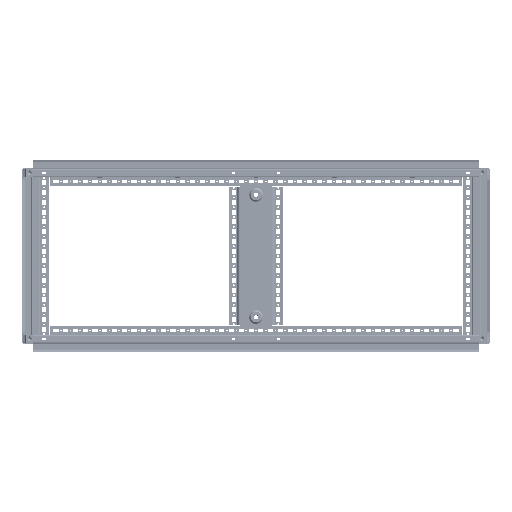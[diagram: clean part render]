
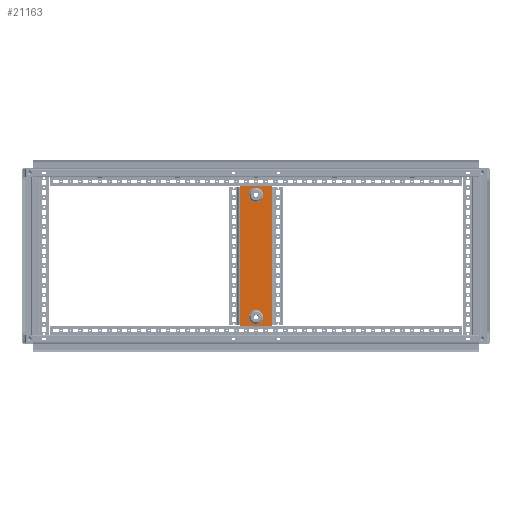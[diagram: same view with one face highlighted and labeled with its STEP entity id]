
A CAD part, front view. The second image highlights one B-rep face of the part: STEP entity #21163.
In plain terms, the highlighted planar face has unit normal (0, -1, 0) as drawn and (0, 0, -1) by its records, which use the part's own axes.
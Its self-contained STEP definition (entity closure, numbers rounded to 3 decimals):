
#25 = DIRECTION ( 'NONE',  ( 1., 0., 0. ) ) ;
#581 = DIRECTION ( 'NONE',  ( 0., 0., -1. ) ) ;
#1079 = CARTESIAN_POINT ( 'NONE',  ( -178.702, -40., 0. ) ) ;
#1216 = ORIENTED_EDGE ( 'NONE', *, *, #50807, .T. ) ;
#1516 = ORIENTED_EDGE ( 'NONE', *, *, #97922, .F. ) ;
#1954 = ORIENTED_EDGE ( 'NONE', *, *, #83735, .T. ) ;
#1981 = DIRECTION ( 'NONE',  ( 1., 0., 0. ) ) ;
#2145 = VERTEX_POINT ( 'NONE', #31481 ) ;
#3298 = VERTEX_POINT ( 'NONE', #1079 ) ;
#3462 = VERTEX_POINT ( 'NONE', #74191 ) ;
#3917 = VECTOR ( 'NONE', #59020, 1000. ) ;
#5285 = CARTESIAN_POINT ( 'NONE',  ( 175.702, -40., 0. ) ) ;
#6473 = VECTOR ( 'NONE', #15382, 1000. ) ;
#6522 = EDGE_CURVE ( 'NONE', #2145, #3298, #24929, .T. ) ;
#8013 = LINE ( 'NONE', #37489, #89281 ) ;
#9247 = DIRECTION ( 'NONE',  ( -1., 0., 0. ) ) ;
#10248 = VERTEX_POINT ( 'NONE', #99473 ) ;
#11030 = LINE ( 'NONE', #16117, #29527 ) ;
#13225 = EDGE_CURVE ( 'NONE', #3462, #91057, #27482, .T. ) ;
#13891 = AXIS2_PLACEMENT_3D ( 'NONE', #34374, #89401, #42305 ) ;
#14155 = CIRCLE ( 'NONE', #13891, 18.267 ) ;
#14299 = VERTEX_POINT ( 'NONE', #68925 ) ;
#14522 = FACE_BOUND ( 'NONE', #55152, .T. ) ;
#15382 = DIRECTION ( 'NONE',  ( 0., 1., 0. ) ) ;
#15670 = EDGE_CURVE ( 'NONE', #25083, #87739, #30799, .T. ) ;
#16117 = CARTESIAN_POINT ( 'NONE',  ( 178.702, -46.558, 0. ) ) ;
#16547 = CARTESIAN_POINT ( 'NONE',  ( -178.702, 40., 0. ) ) ;
#17262 = VERTEX_POINT ( 'NONE', #18788 ) ;
#17271 = EDGE_CURVE ( 'NONE', #39139, #10248, #90605, .T. ) ;
#18788 = CARTESIAN_POINT ( 'NONE',  ( -156.604, 18.267, 0. ) ) ;
#19745 = VECTOR ( 'NONE', #1981, 1000. ) ;
#19975 = VERTEX_POINT ( 'NONE', #37991 ) ;
#21052 = DIRECTION ( 'NONE',  ( 0., 0., -1. ) ) ;
#21163 = ADVANCED_FACE ( 'NONE', ( #14522, #95773, #74915 ), #37461, .T. ) ;
#21636 = DIRECTION ( 'NONE',  ( 0., 1., 0. ) ) ;
#22433 = ORIENTED_EDGE ( 'NONE', *, *, #15670, .T. ) ;
#23335 = EDGE_CURVE ( 'NONE', #50260, #3298, #24031, .T. ) ;
#23821 = EDGE_CURVE ( 'NONE', #81499, #91057, #84281, .T. ) ;
#24031 = LINE ( 'NONE', #81139, #45013 ) ;
#24829 = CIRCLE ( 'NONE', #98628, 18.267 ) ;
#24929 = LINE ( 'NONE', #98173, #3917 ) ;
#25083 = VERTEX_POINT ( 'NONE', #67938 ) ;
#25286 = EDGE_CURVE ( 'NONE', #87768, #50454, #24829, .T. ) ;
#25538 = ORIENTED_EDGE ( 'NONE', *, *, #74150, .T. ) ;
#26432 = VERTEX_POINT ( 'NONE', #79305 ) ;
#27482 = LINE ( 'NONE', #38799, #6473 ) ;
#27804 = ORIENTED_EDGE ( 'NONE', *, *, #23821, .F. ) ;
#29280 = AXIS2_PLACEMENT_3D ( 'NONE', #68299, #21052, #76173 ) ;
#29527 = VECTOR ( 'NONE', #39903, 1000. ) ;
#29717 = CARTESIAN_POINT ( 'NONE',  ( -156.604, 0., 0. ) ) ;
#29881 = CARTESIAN_POINT ( 'NONE',  ( 178.702, -46.558, 0. ) ) ;
#30595 = EDGE_CURVE ( 'NONE', #50260, #3462, #77646, .T. ) ;
#30799 = LINE ( 'NONE', #63192, #67819 ) ;
#31481 = CARTESIAN_POINT ( 'NONE',  ( -175.702, -40., 0. ) ) ;
#32061 = EDGE_CURVE ( 'NONE', #17262, #14299, #99454, .T. ) ;
#32182 = DIRECTION ( 'NONE',  ( -1., 0., 0. ) ) ;
#33383 = LINE ( 'NONE', #95616, #72828 ) ;
#33853 = AXIS2_PLACEMENT_3D ( 'NONE', #29717, #84770, #37636 ) ;
#34374 = CARTESIAN_POINT ( 'NONE',  ( -156.604, 0., 0. ) ) ;
#37216 = LINE ( 'NONE', #95263, #79074 ) ;
#37461 = PLANE ( 'NONE',  #99698 ) ;
#37488 = VECTOR ( 'NONE', #32182, 1000. ) ;
#37489 = CARTESIAN_POINT ( 'NONE',  ( -175.702, -69.5, 0. ) ) ;
#37636 = DIRECTION ( 'NONE',  ( -1., 0., 0. ) ) ;
#37798 = DIRECTION ( 'NONE',  ( 0., 1., 0. ) ) ;
#37991 = CARTESIAN_POINT ( 'NONE',  ( 178.702, -40., 0. ) ) ;
#38799 = CARTESIAN_POINT ( 'NONE',  ( -175.702, 69.5, 0. ) ) ;
#39139 = VERTEX_POINT ( 'NONE', #5285 ) ;
#39903 = DIRECTION ( 'NONE',  ( 0., -1., 0. ) ) ;
#41011 = ORIENTED_EDGE ( 'NONE', *, *, #6522, .T. ) ;
#42305 = DIRECTION ( 'NONE',  ( -1., 0., 0. ) ) ;
#42431 = ORIENTED_EDGE ( 'NONE', *, *, #23335, .F. ) ;
#42879 = ORIENTED_EDGE ( 'NONE', *, *, #25286, .F. ) ;
#45013 = VECTOR ( 'NONE', #65397, 1000. ) ;
#46996 = CARTESIAN_POINT ( 'NONE',  ( 178.702, 40., 0. ) ) ;
#47249 = ORIENTED_EDGE ( 'NONE', *, *, #32061, .F. ) ;
#47874 = CARTESIAN_POINT ( 'NONE',  ( 156.604, 0., 0. ) ) ;
#48164 = DIRECTION ( 'NONE',  ( -1., 0., 0. ) ) ;
#48807 = VECTOR ( 'NONE', #81789, 1000. ) ;
#49266 = EDGE_CURVE ( 'NONE', #87739, #19975, #11030, .T. ) ;
#50260 = VERTEX_POINT ( 'NONE', #16547 ) ;
#50454 = VERTEX_POINT ( 'NONE', #74094 ) ;
#50633 = CARTESIAN_POINT ( 'NONE',  ( 175.702, 41.808, 0. ) ) ;
#50807 = EDGE_CURVE ( 'NONE', #10248, #26432, #33383, .T. ) ;
#53174 = ORIENTED_EDGE ( 'NONE', *, *, #30595, .T. ) ;
#53889 = EDGE_LOOP ( 'NONE', ( #42879, #56413 ) ) ;
#55152 = EDGE_LOOP ( 'NONE', ( #47249, #1516 ) ) ;
#55803 = DIRECTION ( 'NONE',  ( -1., 0., 0. ) ) ;
#55804 = VECTOR ( 'NONE', #72668, 1000. ) ;
#56413 = ORIENTED_EDGE ( 'NONE', *, *, #60392, .F. ) ;
#56851 = CARTESIAN_POINT ( 'NONE',  ( 175.702, 69.5, 0. ) ) ;
#59020 = DIRECTION ( 'NONE',  ( -1., 0., 0. ) ) ;
#59991 = EDGE_LOOP ( 'NONE', ( #80201, #1216, #25538, #41011, #42431, #53174, #93249, #27804, #60258, #22433, #81516, #1954 ) ) ;
#60258 = ORIENTED_EDGE ( 'NONE', *, *, #83302, .T. ) ;
#60392 = EDGE_CURVE ( 'NONE', #50454, #87768, #91392, .T. ) ;
#63192 = CARTESIAN_POINT ( 'NONE',  ( 178.702, 40., 0. ) ) ;
#63226 = CARTESIAN_POINT ( 'NONE',  ( 156.604, 18.267, 0. ) ) ;
#64822 = CARTESIAN_POINT ( 'NONE',  ( -178.702, 40., 0. ) ) ;
#65397 = DIRECTION ( 'NONE',  ( 0., -1., 0. ) ) ;
#67819 = VECTOR ( 'NONE', #25, 1000. ) ;
#67938 = CARTESIAN_POINT ( 'NONE',  ( 175.702, 40., 0. ) ) ;
#68299 = CARTESIAN_POINT ( 'NONE',  ( 156.604, 0., 0. ) ) ;
#68925 = CARTESIAN_POINT ( 'NONE',  ( -156.604, -18.267, 0. ) ) ;
#69554 = CARTESIAN_POINT ( 'NONE',  ( -175.702, 41.808, 0. ) ) ;
#72668 = DIRECTION ( 'NONE',  ( 0., -1., 0. ) ) ;
#72828 = VECTOR ( 'NONE', #9247, 1000. ) ;
#73930 = CARTESIAN_POINT ( 'NONE',  ( 175.702, -69.5, 0. ) ) ;
#74094 = CARTESIAN_POINT ( 'NONE',  ( 156.604, -18.267, 0. ) ) ;
#74150 = EDGE_CURVE ( 'NONE', #26432, #2145, #8013, .T. ) ;
#74191 = CARTESIAN_POINT ( 'NONE',  ( -175.702, 40., 0. ) ) ;
#74915 = FACE_OUTER_BOUND ( 'NONE', #59991, .T. ) ;
#76173 = DIRECTION ( 'NONE',  ( -1., 0., 0. ) ) ;
#77646 = LINE ( 'NONE', #64822, #19745 ) ;
#79074 = VECTOR ( 'NONE', #48164, 1000. ) ;
#79305 = CARTESIAN_POINT ( 'NONE',  ( -175.702, -41.808, 0. ) ) ;
#79338 = CARTESIAN_POINT ( 'NONE',  ( 178.702, 41.808, 0. ) ) ;
#80201 = ORIENTED_EDGE ( 'NONE', *, *, #17271, .T. ) ;
#81139 = CARTESIAN_POINT ( 'NONE',  ( -178.702, -46.558, 0. ) ) ;
#81499 = VERTEX_POINT ( 'NONE', #50633 ) ;
#81516 = ORIENTED_EDGE ( 'NONE', *, *, #49266, .T. ) ;
#81615 = LINE ( 'NONE', #56851, #55804 ) ;
#81789 = DIRECTION ( 'NONE',  ( 0., -1., 0. ) ) ;
#83302 = EDGE_CURVE ( 'NONE', #81499, #25083, #81615, .T. ) ;
#83735 = EDGE_CURVE ( 'NONE', #19975, #39139, #37216, .T. ) ;
#84281 = LINE ( 'NONE', #79338, #37488 ) ;
#84770 = DIRECTION ( 'NONE',  ( 0., 0., -1. ) ) ;
#84905 = DIRECTION ( 'NONE',  ( 0., 0., -1. ) ) ;
#87739 = VERTEX_POINT ( 'NONE', #46996 ) ;
#87768 = VERTEX_POINT ( 'NONE', #63226 ) ;
#89281 = VECTOR ( 'NONE', #21636, 1000. ) ;
#89401 = DIRECTION ( 'NONE',  ( 0., 0., -1. ) ) ;
#90605 = LINE ( 'NONE', #73930, #48807 ) ;
#91057 = VERTEX_POINT ( 'NONE', #69554 ) ;
#91392 = CIRCLE ( 'NONE', #29280, 18.267 ) ;
#93249 = ORIENTED_EDGE ( 'NONE', *, *, #13225, .T. ) ;
#95263 = CARTESIAN_POINT ( 'NONE',  ( 178.702, -40., 0. ) ) ;
#95616 = CARTESIAN_POINT ( 'NONE',  ( 178.702, -41.808, 0. ) ) ;
#95773 = FACE_BOUND ( 'NONE', #53889, .T. ) ;
#97922 = EDGE_CURVE ( 'NONE', #14299, #17262, #14155, .T. ) ;
#98173 = CARTESIAN_POINT ( 'NONE',  ( -178.702, -40., 0. ) ) ;
#98628 = AXIS2_PLACEMENT_3D ( 'NONE', #47874, #581, #55803 ) ;
#99454 = CIRCLE ( 'NONE', #33853, 18.267 ) ;
#99473 = CARTESIAN_POINT ( 'NONE',  ( 175.702, -41.808, 0. ) ) ;
#99698 = AXIS2_PLACEMENT_3D ( 'NONE', #29881, #84905, #37798 ) ;
